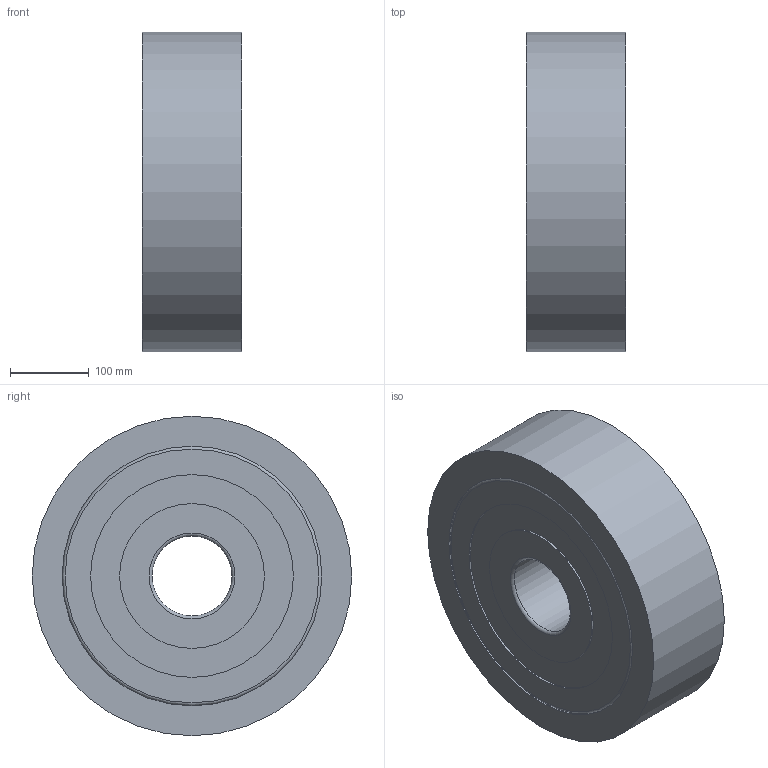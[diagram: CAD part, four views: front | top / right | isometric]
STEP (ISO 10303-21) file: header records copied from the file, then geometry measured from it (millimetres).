
FILE_DESCRIPTION((''),'1');
FILE_NAME('H:/図庫/国内ﾕﾆｯﾄ/ｶﾀﾛｸﾞ/ｺﾞﾑ直巻/ホームページ用ＣＡＤ図面/update用/3', '2017-07-14T08:54:39',(''), (''), 'KCM Version 1.1.1442.0', 'Kubotek KeyCreator', '');
FILE_SCHEMA(('AUTOMOTIVE_DESIGN'));
Length unit declared in the file: inch
Bounding box: 127 x 406.4 x 406.4 mm (x, y, z)
Surface area: 464328.6 mm2 (no closed solid volume)
Topology: 0 solids, 20 shells, 20 faces, 68 edges, 56 vertices
Faces by surface type: plane 8, cylinder 8, torus 4
Full cylindrical faces by diameter (mm): 101.6 x1, 184.15 x2, 257.81 x2, 330.2 x2, 406.4 x1
Entity records: 790 total; most frequent: DIRECTION 154, CARTESIAN_POINT 137, ORIENTED_EDGE 80, AXIS2_PLACEMENT_3D 73, EDGE_CURVE 68, VERTEX_POINT 56, CIRCLE 52, EDGE_LOOP 28
